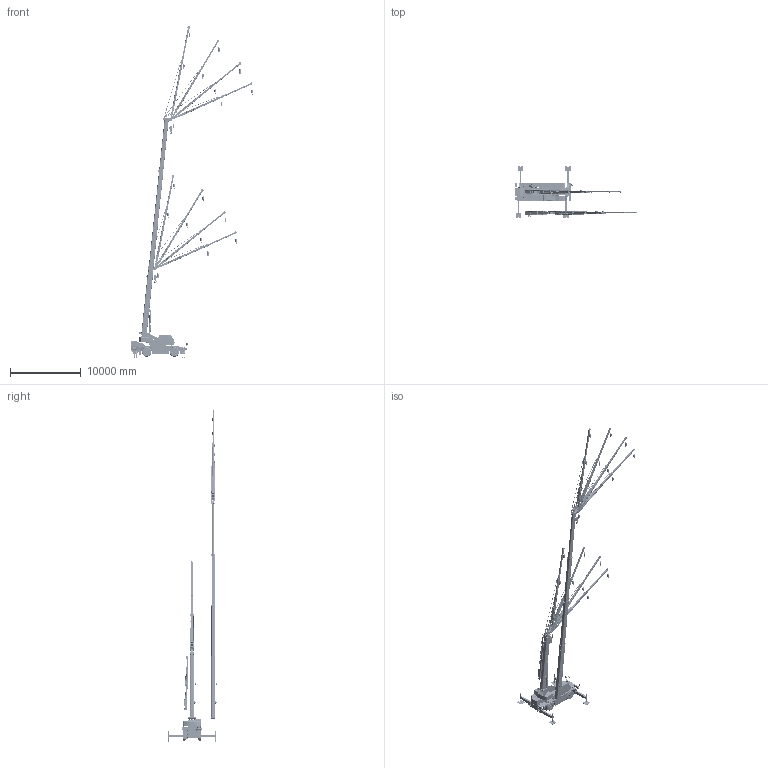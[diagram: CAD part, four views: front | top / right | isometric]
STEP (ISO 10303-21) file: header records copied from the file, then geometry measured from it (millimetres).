
FILE_DESCRIPTION(('CATIA V5 STEP Exchange'),'2;1');
FILE_NAME('\\Iba001\cad\CR\HP用CADデータ\32A\STP\SL-250RV 3D.stp','2026-07-06T07:19:18+00:00',('none'),('none'),'CATIA Version 5-6 Release 2017 SP5 HF78','CATIA V5 STEP AP203','none');
FILE_SCHEMA(('CONFIG_CONTROL_DESIGN'));
Products named in the file (23): SL-250RV 3D; SL-250RV UPPER; SL-250RV UPPER STRUCTURE; SL-250RV BOOM JIB Min; SL-250RV BOOM Min; SL-250RV JIB; SL-250RV JIB 8.8m 5deg; SL-250RV JIB 8.8m 25deg; SL-250RV JIB 8.8m 45deg; SL-250RV JIB 8.8m 60deg; SL-250RV JIB 13.2m 5deg; SL-250RV JIB 13.2m 25deg; SL-250RV JIB 13.2m 45deg; SL-250RV JIB 13.2m 60deg; SL-250RV JIB Stowed; SL-250RV BOOM JIB Max; SL-250RV BOOM Max; SL-250RV CARRIER; SL-250RV OUTRIGGER; SL-250RV BEAM F-L; SL-250RV BEAM F-R; SL-250RV BEAM R-L; SL-250RV BEAM R-R
Assembly tree (100 placements, depth 6):
  SL-250RV 3D
    SL-250RV UPPER
      SL-250RV UPPER STRUCTURE
        #73
        #34021
        #53654
        #54128
      SL-250RV BOOM JIB Min
        SL-250RV BOOM Min
          #54594
          #61221
          #62176
          #63646
        SL-250RV JIB
          SL-250RV JIB 8.8m 5deg
            #70926
            #75450
            #76537
            #80845
          SL-250RV JIB 8.8m 25deg
            #70926
            #75450
            #76537
            #80845
          SL-250RV JIB 8.8m 45deg
            #70926
            #75450
            #76537
            #80845
          SL-250RV JIB 8.8m 60deg
            #70926
            #75450
            #76537
            #80845
          SL-250RV JIB 13.2m 5deg
            #70926
            #75450
            #76537
            #80845
          SL-250RV JIB 13.2m 25deg
            #70926
            #75450
            #76537
            #80845
          SL-250RV JIB 13.2m 45deg
            #70926
            #75450
            #76537
            #80845
          SL-250RV JIB 13.2m 60deg
            #70926
            #75450
            #76537
            #80845
        SL-250RV JIB Stowed
          #76537
          #70926
          #75450
          #85648
        #88082  x9
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Bounding box: 17159.92 x 7403 x 46886.39 mm (x, y, z)
Volume: 54530415784.1 mm3; surface area: 725443957 mm2
Topology: 179 solids, 181 shells, 14909 faces, 39632 edges, 25504 vertices
Faces by surface type: plane 8834, cylinder 4023, extrusion 827, torus 632, bspline 515, cone 46, sphere 22, revolution 10
Entity records: 177723 total; most frequent: CARTESIAN_POINT 77657, ORIENTED_EDGE 23428, DIRECTION 14939, EDGE_CURVE 11714, VERTEX_POINT 7622, VECTOR 7172, LINE 6597, AXIS2_PLACEMENT_3D 4998
